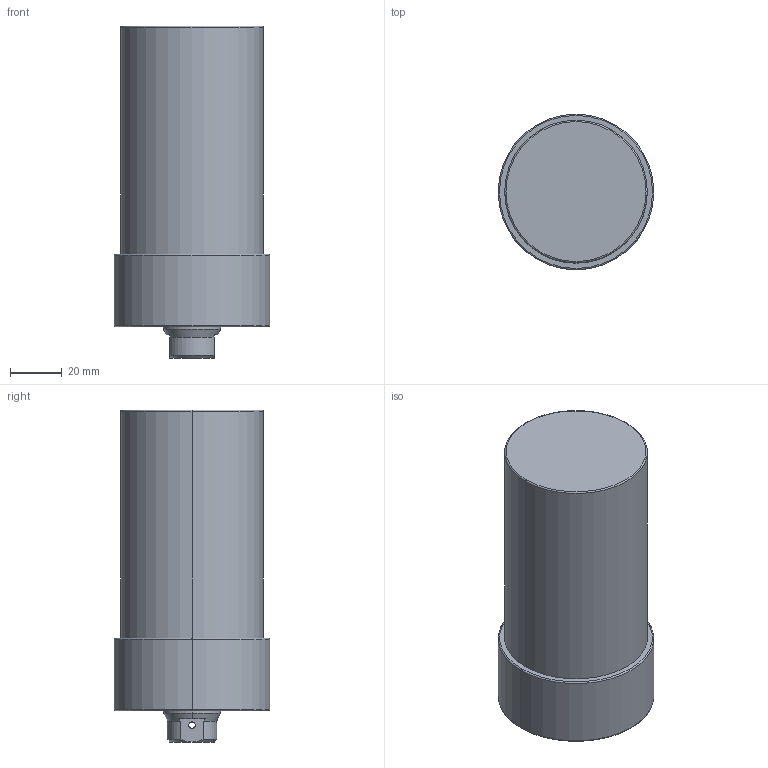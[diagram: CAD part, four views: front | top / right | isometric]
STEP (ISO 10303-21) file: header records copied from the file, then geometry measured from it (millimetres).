
FILE_DESCRIPTION (( 'STEP AP203' ), '1' );
FILE_NAME ('CLLU055-CB-075.STEP', '2017-05-12T11:27:12', ( '' ), ( '' ), 'SwSTEP 2.0', 'SolidWorks 2015', '' );
FILE_SCHEMA (( 'CONFIG_CONTROL_DESIGN' ));
Length unit declared in the file: millimetre
Products named in the file (1): CLLU055-CB-075
Bounding box: 60 x 60 x 128 mm (x, y, z)
Volume: 288531.8 mm3; surface area: 28576.4 mm2
Topology: 1 solids, 1 shells, 66 faces, 152 edges, 85 vertices
Faces by surface type: cylinder 26, cone 24, plane 10, torus 6
Entity records: 1971 total; most frequent: CARTESIAN_POINT 414, DIRECTION 340, ORIENTED_EDGE 284, AXIS2_PLACEMENT_3D 143, EDGE_CURVE 142, VERTEX_POINT 85, EDGE_LOOP 77, CIRCLE 76
